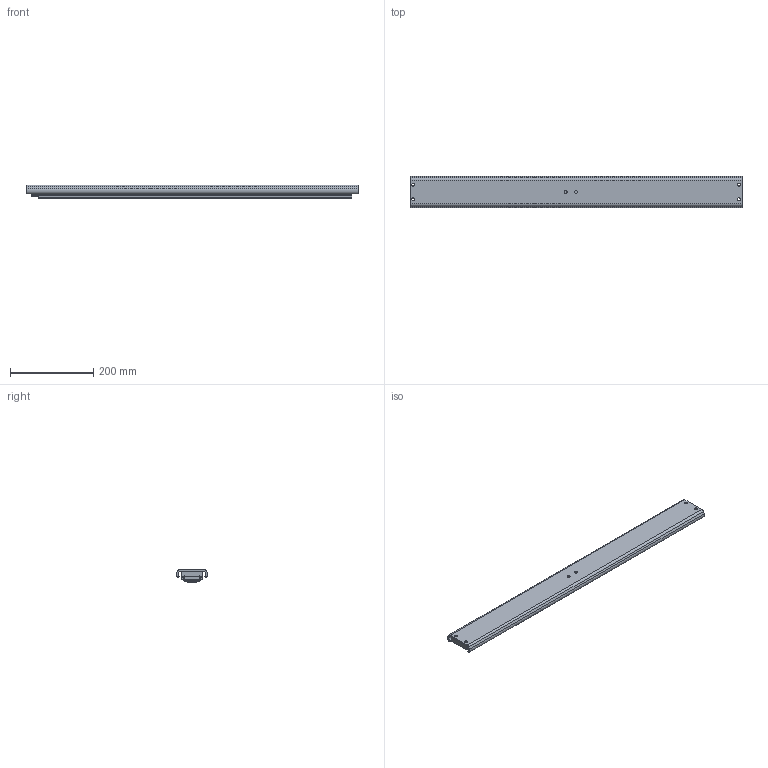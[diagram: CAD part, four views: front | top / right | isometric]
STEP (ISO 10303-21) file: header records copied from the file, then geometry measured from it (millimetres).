
FILE_DESCRIPTION(/* description */ ('TR7532 800 / 1200 (32)'),/* implementation_level */ '2;1');
FILE_NAME(/* name */ 'C:\Workspace\Documents\Projects\Custom Eng\slides\138\13875-Sxx\E000041186.stp',/* time_stamp */ '2016-07-22T13:21:07+02:00',/* author */ ('stagenbd'),/* organization */ (''),/* preprocessor_version */ 'ST-DEVELOPER v15.6',/* originating_system */ 'Autodesk Inventor 2015',/* authorisation */ '');
FILE_SCHEMA (('AUTOMOTIVE_DESIGN { 1 0 10303 214 3 1 1 }'));
Length unit declared in the file: millimetre
Products named in the file (1): E000041186
Bounding box: 800 x 74.93 x 32 mm (x, y, z)
Volume: 929280.8 mm3; surface area: 442513.7 mm2
Topology: 7 solids, 7 shells, 204 faces, 532 edges, 326 vertices
Faces by surface type: cylinder 114, plane 68, sphere 16, cone 6
Full cylindrical faces by diameter (mm): 5 x6, 6.4 x2, 6.6 x2, 7 x4
Entity records: 6150 total; most frequent: DIRECTION 1140, CARTESIAN_POINT 1027, ORIENTED_EDGE 992, EDGE_CURVE 496, AXIS2_PLACEMENT_3D 439, VERTEX_POINT 326, LINE 262, VECTOR 262
